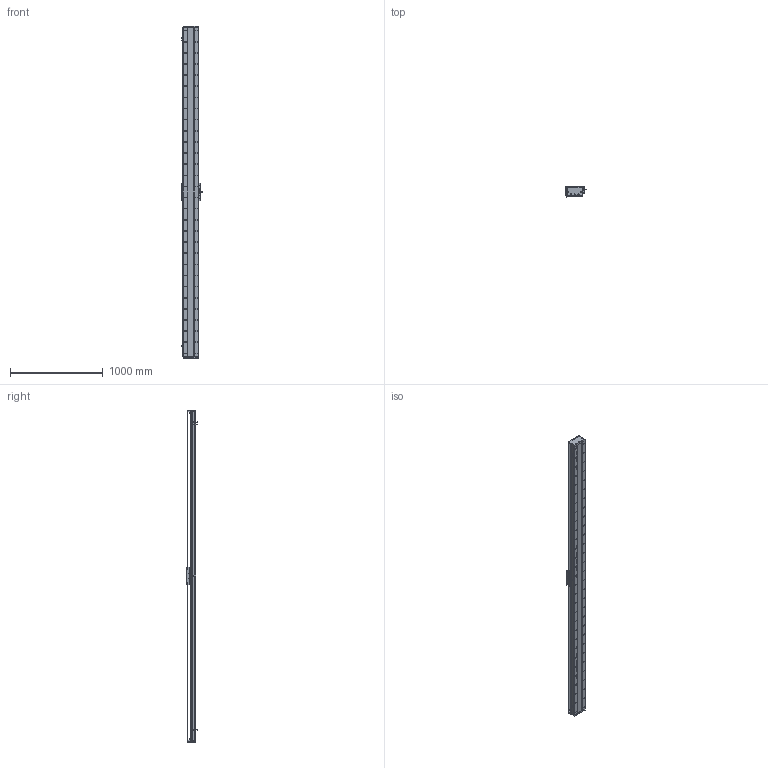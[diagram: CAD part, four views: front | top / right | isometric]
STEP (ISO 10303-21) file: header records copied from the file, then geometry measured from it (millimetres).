
FILE_DESCRIPTION (( 'STEP AP203' ), '1' );
FILE_NAME ('DA-C165-C2-T3300-C010-0.2 直线电机.STEP', '2023-05-11T07:57:11', ( '微软用户' ), ( '微软中国' ), 'SwSTEP 2.0', 'SolidWorks 2019', '' );
FILE_SCHEMA (( 'CONFIG_CONTROL_DESIGN' ));
Length unit declared in the file: millimetre
Products named in the file (18): 葩璃 PM-T45^DA-C165-C2-T-C010-0.2-N 眻盄萇儂; 复件 DA165-GD-1860-002-00 钢带盖板^复件 CU165钢带组件_DA-C165-C2-T-C010-0.2-N 直线电机; 复件 DA165-GD-DG-H-00 端盖^复件 CU165钢带组件_DA-C165-C2-T-C010-0.2-N 直线电机; 复件 六角薄螺母 M3^DA-C165-C2-T-C010-0.2-N 直线电机_GB_FASTENER_NUT_STNAB M3-C; 复件 DA165-GDLK-00 钢带拉块^复件 CU165钢带组件_DA-C165-C2-T-C010-0.2-N 直线电机; DA-C165-C2-T3300-C010-0.2 眻盄萇儂; 复件 DMA-010-0.2 读数头^DA-C165-C2-T-C010-0.2-N 直线电机; IU-CU165-L-00 菁釱_L3540; 葩璃 CKM01-W075-TRL^DA-C165-C2-T-C010-0.2-N 眻盄萇儂; 复件 DA165-GDYK-00 钢带压块^复件 CU165钢带组件_DA-C165-C2-T-C010-0.2-N 直线电机; 珨极趙賑雄怢啣wf-C2; 复件 DA165-GYP-00 光电感应片^DA-C165-C2-T-C010-0.2-N 直线电机; IU-CU165-L 菁釱絳寢; 复件 CU165钢带组件^DA-C165-C2-T-C010-0.2-N 直线电机; 复件 CKM02-W075-C1C2-TP-3.0 一体电机-C2^DA-C165-C2-T-C010-0.2-N 直线电机; 葩璃 DA95-GT-T-00^IU-CU165-L 菁釱絳寢_T; 复件 DA95-HXJ-00 缓冲橡胶^DA-C165-C2-T-C010-0.2-N 直线电机; 复件 XD-U-02L 磁栅尺^DA-C165-C2-T-C010-0.2-N 直线电机_T
Assembly tree (33 placements, depth 3):
  DA-C165-C2-T3300-C010-0.2 眻盄萇儂
    IU-CU165-L 菁釱絳寢
      IU-CU165-L-00 菁釱_L3540
      葩璃 DA95-GT-T-00^IU-CU165-L 菁釱絳寢_T  x4
    复件 XD-U-02L 磁栅尺^DA-C165-C2-T-C010-0.2-N 直线电机_T
    葩璃 PM-T45^DA-C165-C2-T-C010-0.2-N 眻盄萇儂  x3
    葩璃 CKM01-W075-TRL^DA-C165-C2-T-C010-0.2-N 眻盄萇儂
    复件 CU165钢带组件^DA-C165-C2-T-C010-0.2-N 直线电机
      复件 DA165-GD-DG-H-00 端盖^复件 CU165钢带组件_DA-C165-C2-T-C010-0.2-N 直线电机  x2
      复件 DA165-GDYK-00 钢带压块^复件 CU165钢带组件_DA-C165-C2-T-C010-0.2-N 直线电机  x2
      复件 DA165-GD-1860-002-00 钢带盖板^复件 CU165钢带组件_DA-C165-C2-T-C010-0.2-N 直线电机
      复件 DA165-GDLK-00 钢带拉块^复件 CU165钢带组件_DA-C165-C2-T-C010-0.2-N 直线电机  x2
    复件 DA95-HXJ-00 缓冲橡胶^DA-C165-C2-T-C010-0.2-N 直线电机  x4
    复件 DA165-GYP-00 光电感应片^DA-C165-C2-T-C010-0.2-N 直线电机
    复件 DMA-010-0.2 读数头^DA-C165-C2-T-C010-0.2-N 直线电机
    复件 CKM02-W075-C1C2-TP-3.0 一体电机-C2^DA-C165-C2-T-C010-0.2-N 直线电机
    复件 六角薄螺母 M3^DA-C165-C2-T-C010-0.2-N 直线电机_GB_FASTENER_NUT_STNAB M3-C  x6
    珨极趙賑雄怢啣wf-C2
Bounding box: 233 x 111.45 x 3580 mm (x, y, z)
Volume: 19145564.9 mm3; surface area: 5863970.9 mm2
Topology: 70 solids, 70 shells, 4371 faces, 13249 edges, 8527 vertices
Faces by surface type: cylinder 2757, plane 1134, cone 430, torus 46, sphere 4
Entity records: 155853 total; most frequent: CARTESIAN_POINT 44535, ORIENTED_EDGE 23670, DIRECTION 22179, EDGE_CURVE 11835, AXIS2_PLACEMENT_3D 8525, VERTEX_POINT 7763, EDGE_LOOP 5322, VECTOR 5129
